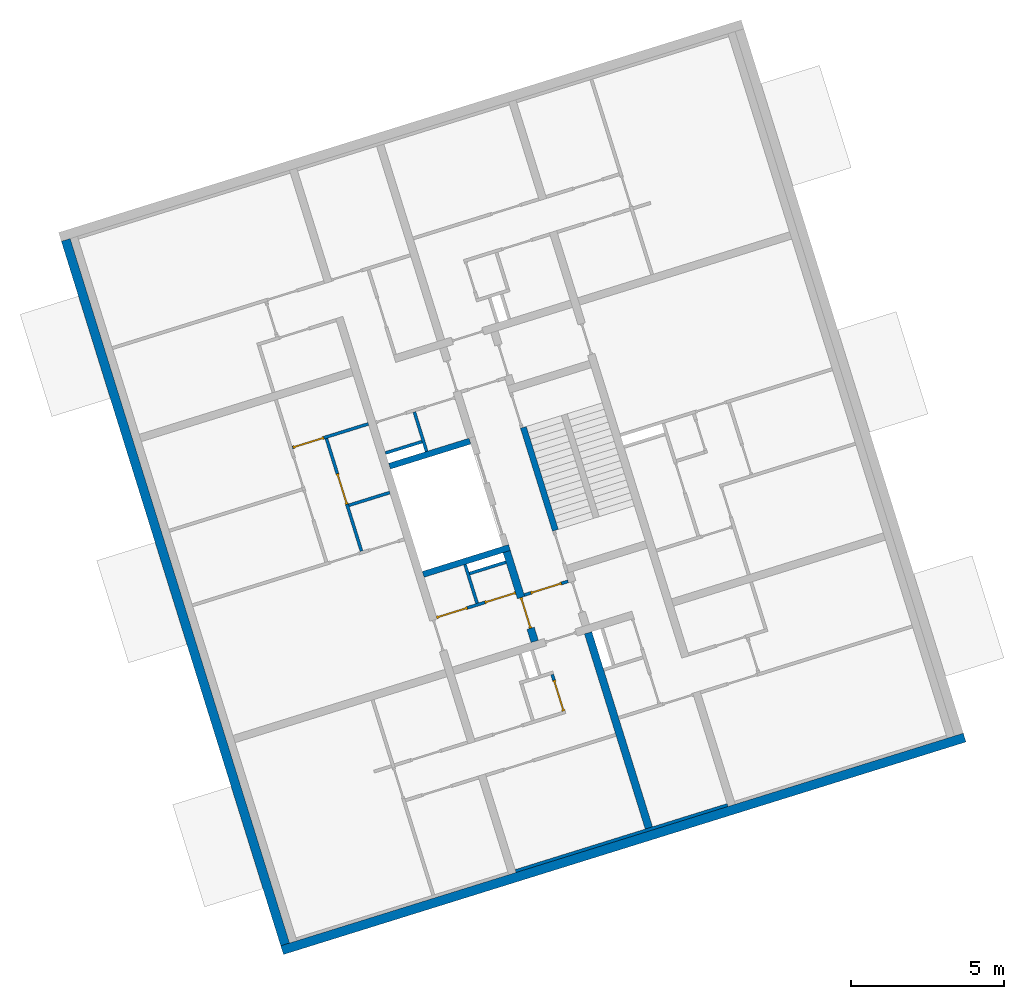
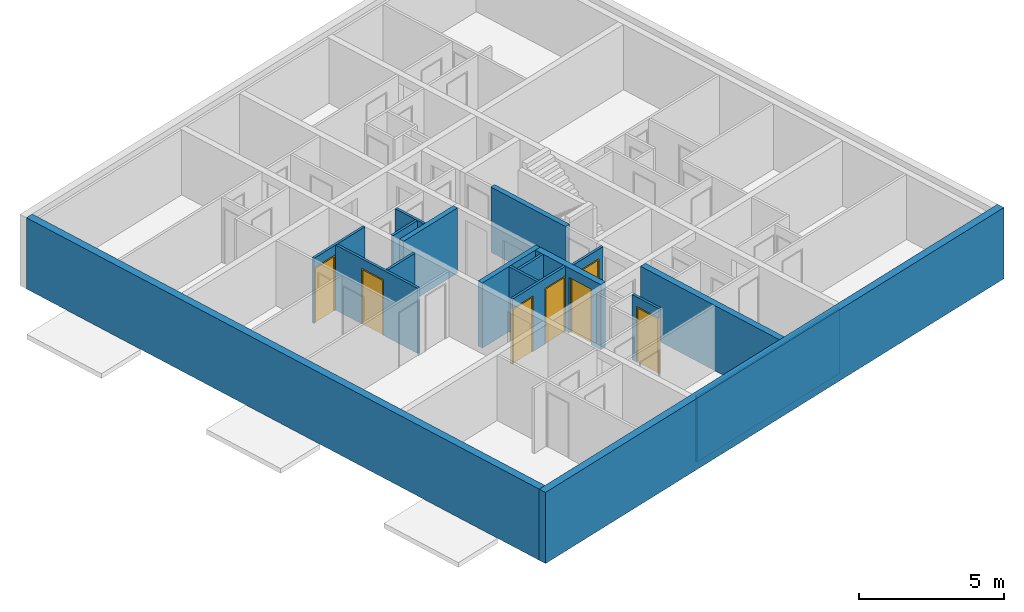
# One storey, part 2 of 9: 18 walls, 7 doors, 7 openings.
"""IFC4 building model written with IfcOpenShell, lengths in metres."""

from ifc_helpers import new_model, entity, si_unit, converted_unit, direction, frame, origin, place, context, subcontext, project, spatial, indexed_curve, outline, extrude, polygons, source, transform, mapped, material, constituent, constituent_set, type_object, type_shapes, element, fill, save


model = new_model("IFC4")

# Units and contexts
model_context = context("Model", 3, precision=1e-05, world=origin(), true_north=direction((6.12323399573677e-17, 1.0)))
body_context = subcontext(model_context, "Body", "Model", "MODEL_VIEW")
ifc_project = project(units=[si_unit("LENGTHUNIT", "METRE"), si_unit("AREAUNIT", "SQUARE_METRE"), si_unit("VOLUMEUNIT", "CUBIC_METRE"), converted_unit("PLANEANGLEUNIT", "DEGREE", entity("IfcPlaneAngleMeasure", 0.0174532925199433), si_unit("PLANEANGLEUNIT", "RADIAN"), dimensions=[0, 0, 0, 0, 0, 0, 0])], contexts=[model_context])

# Site, building, storey
site_placement = place(None, frame((13.1347999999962, 11.9886000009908, 0.0), z_axis=(0.0, 0.0, 1.0), x_axis=(0.954770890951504, 0.297342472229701, 0.0)))
site = spatial("IfcSite", under=ifc_project, at=site_placement, Name="Schiehaven", CompositionType="ELEMENT")
building_placement = place(site_placement, origin())
building = spatial("IfcBuilding", under=site, at=building_placement, Name="VORM huis", CompositionType="ELEMENT")
storey_placement = place(building_placement, frame((0.0, 0.0, 15.9)))
storey = spatial("IfcBuildingStorey", under=building, at=storey_placement, Name="05 vijfde verdieping", CompositionType="ELEMENT", Elevation=15.9)

# Walls
ifc_material_1 = material(Name="ntb_ntb_ntb", Category="Miscellaneous")
wall_type_1 = type_object("IfcWallType", Name="Basic Wall:21_WA_gevel_binnenspouwwand 100mm_gen", PredefinedType="STANDARD")
wall_1_placement = place(storey_placement, frame((19.875, 5.04999999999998, 0.0), z_axis=(0.0, 0.0, 1.0), x_axis=(-1.0, 0.0, 0.0)))
element("IfcWall", 1, at=wall_1_placement, inside=storey, type_object=wall_type_1, material=ifc_material_1, Name="Binnenspouwblad", ObjectType="Wand", PredefinedType="NOTDEFINED", context=body_context, shape_type="SweptSolid", body=[
    extrude(outline(indexed_curve([(7.24999999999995, 0.0499999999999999), (-3.39037421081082e-16, 0.0499999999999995), (3.39037421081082e-16, -0.0499999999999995), (7.24999999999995, -0.049999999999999), (7.24999999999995, 0.0499999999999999)], self_intersect=False)), origin(), (0.0, 0.0, 1.0), 2.75),
])
wall_type_2 = type_object("IfcWallType", Name="Basic Wall: 300mm_gen", PredefinedType="STANDARD")
wall_2_placement = place(storey_placement, frame((4.72500000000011, 5.0, 0.0), z_axis=(0.0, 0.0, 1.0), x_axis=(0.0, 1.0, 0.0)))
element("IfcWall", 2, at=wall_2_placement, inside=storey, type_object=wall_type_2, material=ifc_material_1, Name="Gevelwand", ObjectType="Wand", PredefinedType="NOTDEFINED", context=body_context, shape_type="SweptSolid", body=[
    extrude(outline(indexed_curve([(24.1, 0.15), (-1.57429718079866e-16, 0.15), (1.57429718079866e-16, -0.15), (24.1, -0.15), (24.1, 0.15)], self_intersect=False)), origin(), (0.0, 0.0, 1.0), 3.0),
])
wall_3_placement = place(storey_placement, frame((27.9250000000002, 4.84999999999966, 0.0), z_axis=(0.0, 0.0, 1.0), x_axis=(-1.0, 0.0, 0.0)))
element("IfcWall", 3, at=wall_3_placement, inside=storey, type_object=wall_type_2, material=ifc_material_1, Name="Gevelwand", ObjectType="Wand", PredefinedType="NOTDEFINED", context=body_context, shape_type="SweptSolid", body=[
    extrude(outline(indexed_curve([(23.3500000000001, 0.150000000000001), (2.00830454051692e-15, 0.15), (2.32316397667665e-15, -0.15), (23.3500000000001, -0.15), (23.3500000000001, 0.150000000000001)], self_intersect=False)), origin(), (0.0, 0.0, 1.0), 3.0),
])
ifc_material_2 = material(Name="beton_gewapend_prefab-element", Category="Miscellaneous")
wall_type_3 = type_object("IfcWallType", Name="Basic Wall:28_WA_skelet_wand 200mm_gen", PredefinedType="STANDARD")
wall_4_placement = place(storey_placement, frame((12.6250000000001, 15.2, 0.0)))
element("IfcWall", 4, at=wall_4_placement, inside=storey, type_object=wall_type_3, material=ifc_material_2, Name="Constructieve wand", ObjectType="Wand", PredefinedType="NOTDEFINED", context=body_context, shape_type="SweptSolid", body=[
    extrude(outline(indexed_curve([(2.9500000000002, 0.100000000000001), (-3.51397851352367e-16, 0.100000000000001), (3.51397851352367e-16, -0.100000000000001), (2.9500000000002, -0.100000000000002), (2.9500000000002, 0.100000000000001)], self_intersect=False)), origin(), (0.0, 0.0, 1.0), 2.75),
])
wall_5_placement = place(storey_placement, frame((15.3750000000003, 18.9, 0.0), z_axis=(0.0, 0.0, 1.0), x_axis=(-1.0, 0.0, 0.0)))
element("IfcWall", 5, at=wall_5_placement, inside=storey, type_object=wall_type_3, material=ifc_material_2, Name="Constructieve wand", ObjectType="Wand", PredefinedType="NOTDEFINED", context=body_context, shape_type="SweptSolid", body=[
    extrude(outline(indexed_curve([(2.75000000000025, 0.100000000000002), (-2.05391259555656e-16, 0.100000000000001), (2.05391259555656e-16, -0.100000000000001), (2.75000000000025, -0.0999999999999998), (2.75000000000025, 0.100000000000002)], self_intersect=False)), origin(), (0.0, 0.0, 1.0), 2.75),
])
wall_6_placement = place(storey_placement, frame((17.1750000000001, 15.29, 0.0), z_axis=(0.0, 0.0, 1.0), x_axis=(0.0, 1.0, 0.0)))
element("IfcWall", 6, at=wall_6_placement, inside=storey, type_object=wall_type_3, material=ifc_material_2, Name="Constructieve wand", ObjectType="Wand", PredefinedType="NOTDEFINED", context=body_context, shape_type="SweptSolid", body=[
    extrude(outline(indexed_curve([(3.52, 0.0999999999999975), (-5.13023966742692e-16, 0.0999999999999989), (5.13023966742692e-16, -0.0999999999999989), (3.52, -0.1), (3.52, 0.0999999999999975)], self_intersect=False)), origin(), (0.0, 0.0, 1.0), 2.75),
])
wall_type_4 = type_object("IfcWallType", Name="Basic Wall:22_WA_afbouw_binnenwand 250mm_gen", PredefinedType="STANDARD")
wall_7_placement = place(storey_placement, frame((17.2000000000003, 11.7749999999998, 0.0), z_axis=(0.0, 0.0, 1.0), x_axis=(0.0, -1.0, 0.0)))
element("IfcWall", 7, at=wall_7_placement, inside=storey, type_object=wall_type_4, material=ifc_material_1, Name="Binnenwand", ObjectType="Wand", PredefinedType="NOTDEFINED", context=body_context, shape_type="SweptSolid", body=[
    extrude(outline(indexed_curve([(6.67500000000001, 0.125), (2.50179154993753e-16, 0.125), (-2.50179154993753e-16, -0.125), (6.67500000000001, -0.124999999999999), (6.67500000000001, 0.125)], self_intersect=False)), origin(), (0.0, 0.0, 1.0), 2.75),
])

# Wall, opening, door
wall_8_placement = place(storey_placement, frame((15.4500000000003, 15.0999999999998, 0.0), z_axis=(0.0, 0.0, 1.0), x_axis=(0.0, -1.0, 0.0)))
wall_8 = element("IfcWall", 8, at=wall_8_placement, inside=storey, type_object=wall_type_4, material=ifc_material_1, Name="Binnenwand", ObjectType="Wand", PredefinedType="NOTDEFINED", context=body_context, shape_type="Tessellation", body=[
    polygons([(2.62500000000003, -0.124999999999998, 2.34999999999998), (2.62500000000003, -0.124999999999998, -2.16573425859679e-15), (3.07499999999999, -0.124999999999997, -2.16573425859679e-15), (3.07499999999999, -0.124999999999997, 2.75), (0.0, -0.124999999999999, 2.75), (0.0, -0.124999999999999, -2.16573425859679e-15), (1.57500000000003, -0.125, -2.16573425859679e-15), (1.57500000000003, -0.125, 2.34999999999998), (3.07499999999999, 0.125000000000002, -2.16573425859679e-15), (2.62500000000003, 0.125000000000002, -2.16573425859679e-15), (2.62500000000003, 0.125000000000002, 2.34999999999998), (1.57500000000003, 0.125000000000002, 2.34999999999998), (1.57500000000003, 0.125000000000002, -2.16573425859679e-15), (1.475, 0.125000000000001, -2.16573425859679e-15), (0.0, 0.125, -2.16573425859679e-15), (0.0, 0.125, 2.75), (1.475, 0.125000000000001, 2.75), (1.575, 0.125000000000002, 2.75), (3.07499999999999, 0.125000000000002, 2.75)], [[[1, 2, 3, 4, 5, 6, 7, 8]], [[9, 10, 11, 12, 13, 14, 15, 16, 17, 18, 19]], [[7, 6, 15, 14, 13]], [[4, 3, 9, 19]], [[5, 4, 19, 18, 17, 16]], [[6, 5, 16, 15]], [[13, 12, 8, 7]], [[11, 10, 2, 1]], [[12, 11, 1, 8]], [[3, 2, 10, 9]]], closed=True),
])
opening_1_placement = place(wall_8_placement, frame((1.57500000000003, -0.125000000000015, 0.0)))
opening_1 = element("IfcOpeningElement", 9, at=opening_1_placement, cuts=wall_8, Name="Woningtoegangsdeur", PredefinedType="OPENING", context=body_context, shape_type="SweptSolid", body=[
    extrude(outline(indexed_curve([(2.34999999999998, 1.35358391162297e-15), (2.34999999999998, 1.05), (0.0, 1.05), (0.0, 1.35358391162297e-15), (2.34999999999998, 1.35358391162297e-15)], self_intersect=False)), frame((0.0, 0.0, 0.0), z_axis=(0.0, 1.0, 0.0), x_axis=(0.0, 0.0, 1.0)), (0.0, 0.0, 1.0), 0.25),
])
ifc_material_3 = material(Name="PD_a_binnenwandopeningen", Category="Miscellaneous")
ifc_constituent_1 = constituent(ifc_material_3, Name="PD_a_binnenwandopeningen", Category="Miscellaneous")
ifc_material_4 = material(Name="metaal_aluminium_ntb", Category="Miscellaneous")
ifc_constituent_2 = constituent(ifc_material_4, Name="metaal_aluminium_ntb", Category="Miscellaneous")
ifc_constituent_set_1 = constituent_set(constituents=[ifc_constituent_1, ifc_constituent_2])
door_type_1 = type_object("IfcDoorType", Name="32_DO_binnendeur enkel:woningtoegangsdeur", OperationType="REVOLVING", PredefinedType="DOOR")
shared_shape_1 = source(origin(), body_context, "Body", "SweptSolid", [
    extrude(outline(indexed_curve([(0.475, -1.16249999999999), (0.525000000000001, -1.16249999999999), (0.525000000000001, 1.18749999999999), (-0.525000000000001, 1.18749999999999), (-0.525000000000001, -1.16249999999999), (-0.475, -1.16249999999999), (-0.475, 1.13749999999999), (0.475, 1.13749999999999), (0.475, -1.16249999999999)], self_intersect=False)), frame((0.525000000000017, 0.174999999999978, 1.16249999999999), z_axis=(0.0, -1.0, 0.0), x_axis=(1.0, 0.0, 0.0)), (0.0, 0.0, 1.0), 0.1),
    extrude(outline(indexed_curve([(-0.475, -0.025), (0.475, -0.025), (0.475, 0.025), (-0.475, 0.025), (-0.475, -0.025)], self_intersect=False)), frame((0.525000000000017, 0.12499999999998, 0.0)), (0.0, 0.0, 1.0), 2.29999999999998),
])
door_1_placement = place(opening_1_placement, origin())
door_1 = element("IfcDoor", 10, at=door_1_placement, inside=storey, type_object=door_type_1, material=ifc_constituent_set_1, Name="Woningtoegangsdeur", ObjectType="Deur", OperationType="REVOLVING", OverallHeight=2.34999999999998, OverallWidth=1.05, PredefinedType="DOOR", context=body_context, shape_type="MappedRepresentation", body=[
    mapped(shared_shape_1, transform((0.0, 0.0, 0.0), scale=1.0)),
])
fill(opening_1, door_1)

wall_type_5 = type_object("IfcWallType", Name="Basic Wall:22_WA_afbouw_binnenwand 100mm_gen", PredefinedType="STANDARD")
wall_9_placement = place(storey_placement, frame((17.0750000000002, 13.5749999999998, 0.0), z_axis=(0.0, 0.0, 1.0), x_axis=(-1.0, 0.0, 0.0)))
wall_9 = element("IfcWall", 11, at=wall_9_placement, inside=storey, type_object=wall_type_5, material=ifc_material_1, Name="Binnenwand", ObjectType="Wand", PredefinedType="NOTDEFINED", context=body_context, shape_type="Tessellation", body=[
    polygons([(1.50000000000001, -0.0499999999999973, 2.75), (-5.48799231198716e-16, -0.0499999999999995, 2.75), (-5.48799231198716e-16, -0.0499999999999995, -2.16573425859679e-15), (0.225, -0.0499999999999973, -2.16573425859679e-15), (0.225000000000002, -0.0500000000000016, 2.34999999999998), (1.275, -0.0499999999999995, 2.34999999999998), (1.275, -0.0499999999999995, -2.16573425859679e-15), (1.50000000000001, -0.0499999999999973, -2.16573425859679e-15), (-4.9311163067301e-16, 0.0500000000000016, 2.75), (1.5, 0.0499999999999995, 2.75), (1.5, 0.0499999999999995, 2.34999999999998), (1.5, 0.0499999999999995, -2.16573425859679e-15), (1.275, 0.0499999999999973, -2.16573425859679e-15), (1.275, 0.0499999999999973, 2.34999999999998), (0.225, 0.0499999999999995, 2.34999999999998), (0.225, 0.0499999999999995, -2.16573425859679e-15), (-4.9311163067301e-16, 0.0500000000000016, -2.16573425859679e-15), (-4.93111630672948e-16, 0.0499999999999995, 2.34999999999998)], [[[1, 2, 3, 4, 5, 6, 7, 8]], [[9, 10, 11, 12, 13, 14, 15, 16, 17, 18]], [[3, 17, 16, 4]], [[2, 1, 10, 9]], [[15, 5, 4, 16]], [[5, 15, 14, 6]], [[6, 14, 13, 7]], [[3, 2, 9, 18, 17]], [[1, 8, 12, 11, 10]], [[12, 8, 7, 13]]], closed=True),
])
opening_2_placement = place(wall_9_placement, frame((1.275, 0.0499999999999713, 0.0)))
opening_2 = element("IfcOpeningElement", 12, at=opening_2_placement, cuts=wall_9, Name="Vluchtdeur", PredefinedType="OPENING", context=body_context, shape_type="SweptSolid", body=[
    extrude(outline(indexed_curve([(2.34999999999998, 1.35358391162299e-15), (2.34999999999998, 1.05), (0.0, 1.05), (0.0, 1.35358391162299e-15), (2.34999999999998, 1.35358391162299e-15)], self_intersect=False)), frame((0.0, 0.0, 0.0), z_axis=(0.0, -1.0, 0.0), x_axis=(0.0, 0.0, 1.0)), (0.0, 0.0, 1.0), 0.1),
])
ifc_constituent_3 = constituent(ifc_material_3, Name="PD_a_binnenwandopeningen", Category="Miscellaneous")
ifc_constituent_4 = constituent(ifc_material_4, Name="metaal_aluminium_ntb", Category="Miscellaneous")
ifc_constituent_set_2 = constituent_set(constituents=[ifc_constituent_3, ifc_constituent_4])
door_type_2 = type_object("IfcDoorType", Name="32_DO_binnendeur enkel:binnendeur zelfsluitend 30min", OperationType="NOTDEFINED", PredefinedType="DOOR")
shared_shape_2 = source(origin(), body_context, "Body", "SweptSolid", [
    extrude(outline(indexed_curve([(0.475, -1.16249999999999), (0.525, -1.16249999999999), (0.525, 1.18749999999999), (-0.525, 1.18749999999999), (-0.525, -1.16249999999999), (-0.475, -1.16249999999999), (-0.475, 1.13749999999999), (0.475, 1.13749999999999), (0.475, -1.16249999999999)], self_intersect=False)), frame((0.525000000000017, 0.100000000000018, 1.16249999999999), z_axis=(0.0, -1.0, 0.0), x_axis=(1.0, 0.0, 0.0)), (0.0, 0.0, 1.0), 0.1),
    extrude(outline(indexed_curve([(-0.475, -0.025), (0.475, -0.025), (0.475, 0.025), (-0.475, 0.025), (-0.475, -0.025)], self_intersect=False)), frame((0.525000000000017, 0.0499999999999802, 0.0)), (0.0, 0.0, 1.0), 2.29999999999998),
])
door_2_placement = place(opening_2_placement, frame((0.0, 0.0, 0.0), z_axis=(0.0, 0.0, 1.0), x_axis=(-1.0, 0.0, 0.0)))
door_2 = element("IfcDoor", 13, at=door_2_placement, inside=storey, type_object=door_type_2, material=ifc_constituent_set_2, Name="Vluchtdeur", ObjectType="Deur", OperationType="NOTDEFINED", OverallHeight=2.34999999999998, OverallWidth=1.05, PredefinedType="DOOR", context=body_context, shape_type="MappedRepresentation", body=[
    mapped(shared_shape_2, transform((0.0, 0.0, 0.0), scale=1.0)),
])
fill(opening_2, door_2)

wall_10_placement = place(storey_placement, frame((15.6750000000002, 9.57499999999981, 0.0), z_axis=(0.0, 0.0, 1.0), x_axis=(0.0, 1.0, 0.0)))
wall_10 = element("IfcWall", 14, at=wall_10_placement, inside=storey, type_object=wall_type_5, material=ifc_material_1, Name="Binnenwand", ObjectType="Wand", PredefinedType="NOTDEFINED", context=body_context, shape_type="Tessellation", body=[
    polygons([(1.25, -0.0499999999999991, 2.75), (1.08286712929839e-15, -0.0499999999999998, 2.75), (1.08286712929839e-15, -0.0499999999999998, 2.34999999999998), (1.05, -0.050000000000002, 2.34999999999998), (1.05, -0.050000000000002, 0.0), (1.25, -0.0499999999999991, 0.0), (0.0, 0.0500000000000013, 2.75), (1.25, 0.0499999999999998, 2.75), (1.25, 0.0499999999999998, 0.0), (1.05, 0.0499999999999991, 0.0), (1.05, 0.0499999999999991, 2.34999999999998), (0.0, 0.0500000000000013, 2.34999999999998)], [[[1, 2, 3, 4, 5, 6]], [[7, 8, 9, 10, 11, 12]], [[9, 6, 5, 10]], [[2, 1, 8, 7]], [[4, 11, 10, 5]], [[11, 4, 3, 12]], [[1, 6, 9, 8]], [[2, 7, 12, 3]]], closed=True),
])
opening_3_placement = place(wall_10_placement, frame((1.05, 0.0499999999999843, 0.0)))
opening_3 = element("IfcOpeningElement", 15, at=opening_3_placement, cuts=wall_10, Name="Binnendeur", PredefinedType="OPENING", context=body_context, shape_type="SweptSolid", body=[
    extrude(outline(indexed_curve([(2.34999999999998, 1.05), (0.0, 1.05), (0.0, 1.35358391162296e-15), (2.34999999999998, 1.35358391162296e-15), (2.34999999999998, 1.05)], self_intersect=False)), frame((0.0, 0.0, 0.0), z_axis=(0.0, -1.0, 0.0), x_axis=(0.0, 0.0, 1.0)), (0.0, 0.0, 1.0), 0.1),
])
ifc_constituent_5 = constituent(ifc_material_3, Name="PD_a_binnenwandopeningen", Category="Miscellaneous")
ifc_constituent_6 = constituent(ifc_material_4, Name="metaal_aluminium_ntb", Category="Miscellaneous")
ifc_constituent_set_3 = constituent_set(constituents=[ifc_constituent_5, ifc_constituent_6])
door_type_3 = type_object("IfcDoorType", Name="32_DO_binnendeur enkel:binnendeur", OperationType="REVOLVING", PredefinedType="DOOR")
shared_shape_3 = source(origin(), body_context, "Body", "SweptSolid", [
    extrude(outline(indexed_curve([(-1.16249999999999, -0.525000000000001), (1.18749999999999, -0.525), (1.18749999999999, 0.525), (-1.16249999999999, 0.525), (-1.16249999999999, 0.475), (1.13749999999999, 0.475), (1.13749999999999, -0.475), (-1.16249999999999, -0.475), (-1.16249999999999, -0.525000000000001)], self_intersect=False)), frame((0.525000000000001, 0.0, 1.16249999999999), z_axis=(0.0, 1.0, 0.0), x_axis=(0.0, 0.0, 1.0)), (0.0, 0.0, 1.0), 0.1),
    extrude(outline(indexed_curve([(-0.025, -0.475), (0.025, -0.475), (0.025, 0.475), (-0.025, 0.475), (-0.025, -0.475)], self_intersect=False)), frame((0.525000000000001, 0.0499999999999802, 0.0), z_axis=(0.0, 0.0, 1.0), x_axis=(0.0, 1.0, 0.0)), (0.0, 0.0, 1.0), 2.29999999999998),
])
type_shapes(door_type_3, [shared_shape_3])
door_3_placement = place(opening_3_placement, frame((0.0, 0.0, 0.0), z_axis=(0.0, 0.0, 1.0), x_axis=(-1.0, 0.0, 0.0)))
door_3 = element("IfcDoor", 16, at=door_3_placement, inside=storey, type_object=door_type_3, material=ifc_constituent_set_3, Name="Binnendeur", ObjectType="Deur", OperationType="REVOLVING", OverallHeight=2.34999999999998, OverallWidth=1.05, PredefinedType="DOOR", context=body_context, shape_type="MappedRepresentation", body=[
    mapped(shared_shape_3, transform((0.0, 0.0, 0.0), scale=1.0)),
])
fill(opening_3, door_3)

# Walls
wall_11_placement = place(storey_placement, frame((13.9250000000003, 19.0, 0.0), z_axis=(0.0, 0.0, 1.0), x_axis=(0.0, 1.0, 0.0)))
element("IfcWall", 17, at=wall_11_placement, inside=storey, type_object=wall_type_5, material=ifc_material_1, Name="Binnenwand", ObjectType="Wand", PredefinedType="NOTDEFINED", context=body_context, shape_type="SweptSolid", body=[
    extrude(outline(indexed_curve([(1.34999999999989, 0.05), (-2.17202003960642e-17, 0.0499999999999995), (2.17202003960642e-17, -0.0499999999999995), (1.34999999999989, -0.0499999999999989), (1.34999999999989, 0.05)], self_intersect=False)), origin(), (0.0, 0.0, 1.0), 2.75),
])
wall_12_placement = place(storey_placement, frame((12.6250000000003, 19.3499999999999, 0.0)))
element("IfcWall", 18, at=wall_12_placement, inside=storey, type_object=wall_type_5, material=ifc_material_1, Name="Binnenwand", ObjectType="Wand", PredefinedType="NOTDEFINED", context=body_context, shape_type="SweptSolid", body=[
    extrude(outline(indexed_curve([(1.25000000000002, 0.0500000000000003), (9.21562864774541e-16, 0.0499999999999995), (-9.21562864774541e-16, -0.0499999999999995), (1.25000000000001, -0.0499999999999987), (1.25000000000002, 0.0500000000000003)], self_intersect=False)), origin(), (0.0, 0.0, 1.0), 2.75),
])

# Wall, opening, door
wall_13_placement = place(storey_placement, frame((9.77500000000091, 20.4250000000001, 0.0)))
wall_13 = element("IfcWall", 19, at=wall_13_placement, inside=storey, type_object=wall_type_5, material=ifc_material_1, Name="Binnenwand", ObjectType="Wand", PredefinedType="NOTDEFINED", context=body_context, shape_type="Tessellation", body=[
    polygons([(1.075, -0.0499999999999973, 2.34999999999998), (1.075, -0.0499999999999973, 0.0), (1.1, -0.0499999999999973, 0.0), (1.2, -0.0499999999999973, 0.0), (2.59999999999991, -0.0499999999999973, 0.0), (2.59999999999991, -0.0499999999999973, 2.75), (1.2, -0.0499999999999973, 2.75), (1.1, -0.0499999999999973, 2.75), (9.59700802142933e-16, -0.0499999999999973, 2.75), (9.59700802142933e-16, -0.0499999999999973, 0.0), (0.0250000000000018, -0.0499999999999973, 0.0), (0.0250000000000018, -0.0499999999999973, 2.34999999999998), (2.59999999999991, 0.0500000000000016, 0.0), (1.075, 0.0500000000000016, 0.0), (1.075, 0.0500000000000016, 2.34999999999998), (0.0250000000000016, 0.0500000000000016, 2.34999999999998), (0.0250000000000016, 0.0500000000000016, 0.0), (8.26229172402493e-16, 0.0500000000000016, 0.0), (8.26229172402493e-16, 0.0500000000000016, 2.75), (2.59999999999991, 0.0500000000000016, 2.75)], [[[1, 2, 3, 4, 5, 6, 7, 8, 9, 10, 11, 12]], [[13, 14, 15, 16, 17, 18, 19, 20]], [[11, 10, 18, 17]], [[6, 5, 13, 20]], [[9, 8, 7, 6, 20, 19]], [[10, 9, 19, 18]], [[17, 16, 12, 11]], [[15, 14, 2, 1]], [[16, 15, 1, 12]], [[5, 4, 3, 2, 14, 13]]], closed=True),
])
opening_4_placement = place(wall_13_placement, frame((1.075, 0.0500000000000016, 0.0)))
opening_4 = element("IfcOpeningElement", 20, at=opening_4_placement, cuts=wall_13, Name="Binnendeur", PredefinedType="OPENING", context=body_context, shape_type="SweptSolid", body=[
    extrude(outline(indexed_curve([(2.34999999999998, 1.05), (0.0, 1.05), (0.0, 1.35358391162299e-15), (2.34999999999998, 1.35358391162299e-15), (2.34999999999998, 1.05)], self_intersect=False)), frame((0.0, 0.0, 0.0), z_axis=(0.0, -1.0, 0.0), x_axis=(0.0, 0.0, 1.0)), (0.0, 0.0, 1.0), 0.1),
])
ifc_constituent_7 = constituent(ifc_material_3, Name="PD_a_binnenwandopeningen", Category="Miscellaneous")
ifc_constituent_8 = constituent(ifc_material_4, Name="metaal_aluminium_ntb", Category="Miscellaneous")
ifc_constituent_set_4 = constituent_set(constituents=[ifc_constituent_7, ifc_constituent_8])
door_4_placement = place(opening_4_placement, frame((0.0, 0.0, 0.0), z_axis=(0.0, 0.0, 1.0), x_axis=(-1.0, 0.0, 0.0)))
door_4 = element("IfcDoor", 21, at=door_4_placement, inside=storey, type_object=door_type_3, material=ifc_constituent_set_4, Name="Binnendeur", ObjectType="Deur", OperationType="REVOLVING", OverallHeight=2.34999999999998, OverallWidth=1.05, PredefinedType="DOOR", context=body_context, shape_type="MappedRepresentation", body=[
    mapped(shared_shape_3, transform((0.0, 0.0, 0.0), scale=1.0)),
])
fill(opening_4, door_4)

wall_14_placement = place(storey_placement, frame((10.9250000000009, 20.3750000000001, 0.0), z_axis=(0.0, 0.0, 1.0), x_axis=(0.0, -1.0, 0.0)))
wall_14 = element("IfcWall", 22, at=wall_14_placement, inside=storey, type_object=wall_type_5, material=ifc_material_1, Name="Binnenwand", ObjectType="Wand", PredefinedType="NOTDEFINED", context=body_context, shape_type="Tessellation", body=[
    polygons([(2.25000000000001, -0.0500000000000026, 2.34999999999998), (2.25000000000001, -0.0500000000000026, 0.0), (3.85000000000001, -0.0500000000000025, 0.0), (3.85000000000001, -0.0500000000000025, 2.75), (0.0, -0.0500000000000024, 2.75), (0.0, -0.0500000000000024, 0.0), (1.20000000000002, -0.0500000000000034, 0.0), (1.20000000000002, -0.0500000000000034, 2.34999999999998), (3.85000000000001, 0.0499999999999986, 0.0), (2.35000000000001, 0.0499999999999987, 0.0), (2.25000000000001, 0.0499999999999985, 0.0), (2.25000000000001, 0.0499999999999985, 2.34999999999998), (1.20000000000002, 0.0499999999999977, 2.34999999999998), (1.20000000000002, 0.0499999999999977, 0.0), (0.0, 0.0499999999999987, 0.0), (0.0, 0.0499999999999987, 2.75), (2.25000000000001, 0.0499999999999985, 2.75), (2.35000000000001, 0.0499999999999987, 2.75), (3.85000000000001, 0.0499999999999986, 2.75)], [[[1, 2, 3, 4, 5, 6, 7, 8]], [[9, 10, 11, 12, 13, 14, 15, 16, 17, 18, 19]], [[7, 6, 15, 14]], [[5, 4, 19, 18, 17, 16]], [[6, 5, 16, 15]], [[4, 3, 9, 19]], [[14, 13, 8, 7]], [[12, 11, 2, 1]], [[13, 12, 1, 8]], [[3, 2, 11, 10, 9]]], closed=True),
])
opening_5_placement = place(wall_14_placement, frame((2.25000000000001, 0.0499999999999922, 0.0)))
opening_5 = element("IfcOpeningElement", 23, at=opening_5_placement, cuts=wall_14, Name="Binnendeur", PredefinedType="OPENING", context=body_context, shape_type="SweptSolid", body=[
    extrude(outline(indexed_curve([(2.34999999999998, 1.05), (0.0, 1.05), (0.0, 1.35358391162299e-15), (2.34999999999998, 1.35358391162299e-15), (2.34999999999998, 1.05)], self_intersect=False)), frame((0.0, 0.0, 0.0), z_axis=(0.0, -1.0, 0.0), x_axis=(0.0, 0.0, 1.0)), (0.0, 0.0, 1.0), 0.1),
])
ifc_constituent_9 = constituent(ifc_material_3, Name="PD_a_binnenwandopeningen", Category="Miscellaneous")
ifc_constituent_10 = constituent(ifc_material_4, Name="metaal_aluminium_ntb", Category="Miscellaneous")
ifc_constituent_set_5 = constituent_set(constituents=[ifc_constituent_9, ifc_constituent_10])
door_5_placement = place(opening_5_placement, frame((0.0, 0.0, 0.0), z_axis=(0.0, 0.0, 1.0), x_axis=(-1.0, 0.0, 0.0)))
door_5 = element("IfcDoor", 24, at=door_5_placement, inside=storey, type_object=door_type_3, material=ifc_constituent_set_5, Name="Binnendeur", ObjectType="Deur", OperationType="REVOLVING", OverallHeight=2.34999999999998, OverallWidth=1.05, PredefinedType="DOOR", context=body_context, shape_type="MappedRepresentation", body=[
    mapped(shared_shape_3, transform((0.0, 0.0, 0.0), scale=1.0)),
])
fill(opening_5, door_5)

# Wall, openings, doors
wall_15_placement = place(storey_placement, frame((15.3250000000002, 13.7249999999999, 0.0), z_axis=(0.0, 0.0, 1.0), x_axis=(-1.0, 0.0, 0.0)))
wall_15 = element("IfcWall", 25, at=wall_15_placement, inside=storey, type_object=wall_type_5, material=ifc_material_1, Name="Binnenwand", ObjectType="Wand", PredefinedType="NOTDEFINED", context=body_context, shape_type="Tessellation", body=[
    polygons([(2.70000000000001, -0.0499999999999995, 2.75), (1.34999999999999, -0.0500000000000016, 2.75), (1.24999999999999, -0.0500000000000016, 2.75), (-4.01061899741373e-16, -0.0499999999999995, 2.75), (-4.01061899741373e-16, -0.0499999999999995, 2.34999999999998), (1.04999999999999, -0.0500000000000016, 2.34999999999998), (1.04999999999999, -0.0500000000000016, 0.0), (1.24999999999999, -0.0500000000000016, 0.0), (1.34999999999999, -0.0500000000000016, 0.0), (1.65000000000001, -0.0500000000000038, 0.0), (1.65000000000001, -0.0500000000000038, 2.34999999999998), (2.70000000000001, -0.0499999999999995, 2.34999999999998), (-1.04276093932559e-15, 0.0499999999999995, 2.75), (2.70000000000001, 0.0499999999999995, 2.75), (2.70000000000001, 0.0499999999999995, 2.34999999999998), (1.65000000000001, 0.0499999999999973, 2.34999999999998), (1.65000000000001, 0.0499999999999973, 0.0), (1.05, 0.0500000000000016, 0.0), (1.05, 0.0500000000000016, 2.34999999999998), (-1.04276093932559e-15, 0.0499999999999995, 2.34999999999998)], [[[1, 2, 3, 4, 5, 6, 7, 8, 9, 10, 11, 12]], [[13, 14, 15, 16, 17, 18, 19, 20]], [[7, 18, 17, 10, 9, 8]], [[14, 1, 12, 15]], [[4, 3, 2, 1, 14, 13]], [[4, 13, 20, 5]], [[6, 19, 18, 7]], [[19, 6, 5, 20]], [[16, 11, 10, 17]], [[11, 16, 15, 12]]], closed=True),
])
opening_6_placement = place(wall_15_placement, frame((0.0, -0.0500000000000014, 0.0)))
opening_6 = element("IfcOpeningElement", 26, at=opening_6_placement, cuts=wall_15, Name="Binnendeur", PredefinedType="OPENING", context=body_context, shape_type="SweptSolid", body=[
    extrude(outline(indexed_curve([(2.34999999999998, 1.05), (0.0, 1.05), (0.0, 1.35358391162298e-15), (2.34999999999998, 1.35358391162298e-15), (2.34999999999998, 1.05)], self_intersect=False)), frame((0.0, 0.0, 0.0), z_axis=(0.0, 1.0, 0.0), x_axis=(0.0, 0.0, 1.0)), (0.0, 0.0, 1.0), 0.1),
])
opening_7_placement = place(wall_15_placement, frame((1.65000000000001, -0.0500000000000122, 0.0)))
opening_7 = element("IfcOpeningElement", 27, at=opening_7_placement, cuts=wall_15, Name="Binnendeur", PredefinedType="OPENING", context=body_context, shape_type="SweptSolid", body=[
    extrude(outline(indexed_curve([(2.34999999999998, 1.05), (0.0, 1.05), (0.0, 1.35358391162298e-15), (2.34999999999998, 1.35358391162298e-15), (2.34999999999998, 1.05)], self_intersect=False)), frame((0.0, 0.0, 0.0), z_axis=(0.0, 1.0, 0.0), x_axis=(0.0, 0.0, 1.0)), (0.0, 0.0, 1.0), 0.1),
])
ifc_constituent_11 = constituent(ifc_material_3, Name="PD_a_binnenwandopeningen", Category="Miscellaneous")
ifc_constituent_12 = constituent(ifc_material_4, Name="metaal_aluminium_ntb", Category="Miscellaneous")
ifc_constituent_set_6 = constituent_set(constituents=[ifc_constituent_11, ifc_constituent_12])
door_6_placement = place(opening_6_placement, origin())
door_6 = element("IfcDoor", 28, at=door_6_placement, inside=storey, type_object=door_type_3, material=ifc_constituent_set_6, Name="Binnendeur", ObjectType="Deur", OperationType="REVOLVING", OverallHeight=2.34999999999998, OverallWidth=1.05, PredefinedType="DOOR", context=body_context, shape_type="MappedRepresentation", body=[
    mapped(shared_shape_3, transform((0.0, 0.0, 0.0), scale=1.0)),
])
fill(opening_6, door_6)
ifc_constituent_13 = constituent(ifc_material_3, Name="PD_a_binnenwandopeningen", Category="Miscellaneous")
ifc_constituent_14 = constituent(ifc_material_4, Name="metaal_aluminium_ntb", Category="Miscellaneous")
ifc_constituent_set_7 = constituent_set(constituents=[ifc_constituent_13, ifc_constituent_14])
door_7_placement = place(opening_7_placement, origin())
door_7 = element("IfcDoor", 29, at=door_7_placement, inside=storey, type_object=door_type_3, material=ifc_constituent_set_7, Name="Binnendeur", ObjectType="Deur", OperationType="REVOLVING", OverallHeight=2.34999999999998, OverallWidth=1.05, PredefinedType="DOOR", context=body_context, shape_type="MappedRepresentation", body=[
    mapped(shared_shape_3, transform((0.0, 0.0, 0.0), scale=1.0)),
])
fill(opening_7, door_7)

# Walls
wall_16_placement = place(storey_placement, frame((15.3250000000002, 14.7749999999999, 0.0), z_axis=(0.0, 0.0, 1.0), x_axis=(-1.0, 0.0, 0.0)))
element("IfcWall", 30, at=wall_16_placement, inside=storey, type_object=wall_type_5, material=ifc_material_1, Name="Binnenwand", ObjectType="Wand", PredefinedType="NOTDEFINED", context=body_context, shape_type="SweptSolid", body=[
    extrude(outline(indexed_curve([(1.24999999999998, 0.050000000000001), (-3.20849519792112e-16, 0.0499999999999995), (3.20849519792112e-16, -0.0499999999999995), (1.24999999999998, -0.0499999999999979), (1.24999999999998, 0.050000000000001)], self_intersect=False)), origin(), (0.0, 0.0, 1.0), 2.75),
])
wall_17_placement = place(storey_placement, frame((14.0250000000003, 13.7749999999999, 0.0), z_axis=(0.0, 0.0, 1.0), x_axis=(0.0, 1.0, 0.0)))
element("IfcWall", 31, at=wall_17_placement, inside=storey, type_object=wall_type_5, material=ifc_material_1, Name="Binnenwand", ObjectType="Wand", PredefinedType="NOTDEFINED", context=body_context, shape_type="SweptSolid", body=[
    extrude(outline(indexed_curve([(1.32500000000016, 0.05), (-1.03130202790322e-16, 0.0499999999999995), (1.03130202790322e-16, -0.0499999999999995), (1.32500000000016, -0.0499999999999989), (1.32500000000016, 0.05)], self_intersect=False)), origin(), (0.0, 0.0, 1.0), 2.75),
])
wall_18_placement = place(storey_placement, frame((12.3771642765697, 18.075, 0.0), z_axis=(0.0, 0.0, 1.0), x_axis=(-1.0, 0.0, 0.0)))
element("IfcWall", 32, at=wall_18_placement, inside=storey, type_object=wall_type_5, material=ifc_material_1, Name="Binnenwand", ObjectType="Wand", PredefinedType="NOTDEFINED", context=body_context, shape_type="SweptSolid", body=[
    extrude(outline(indexed_curve([(1.40216427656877, 0.05), (-3.2845023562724e-16, 0.0499999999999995), (3.2845023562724e-16, -0.0499999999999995), (1.40216427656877, -0.0499999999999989), (1.40216427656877, 0.05)], self_intersect=False)), origin(), (0.0, 0.0, 1.0), 2.75),
])

save(model, "model.ifc")
